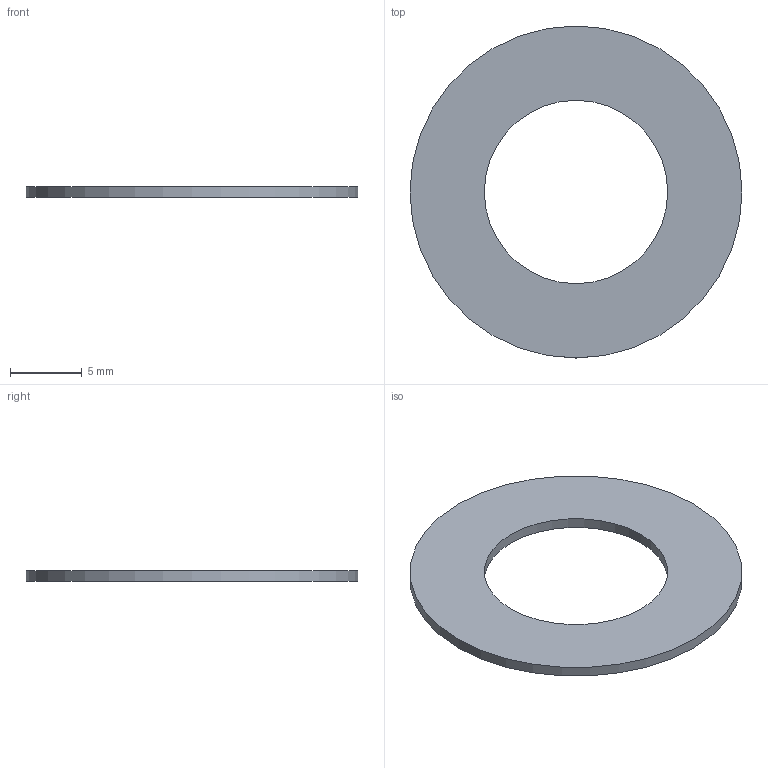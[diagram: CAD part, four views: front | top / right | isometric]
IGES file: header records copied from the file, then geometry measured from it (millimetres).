
Global section: file name: No Iges File Name specified; native system: AutoDesk Inventor R5.0; preprocessor: AutoDesk Inventor Iges Exporter R5.0; author: No Author specified; organization: No Organization specified; date: 20040109.204457; units: inch
Bounding box: 23.18 x 23.18 x 0.74 mm (x, y, z)
Surface area: 669.7 mm2 (no closed solid volume)
Topology: 0 solids, 0 shells, 4 faces, 10 edges, 8 vertices
Faces by surface type: revolution 2, plane 2
